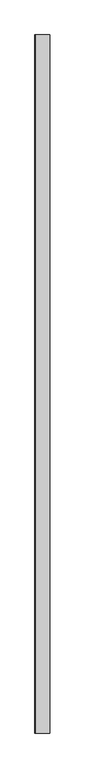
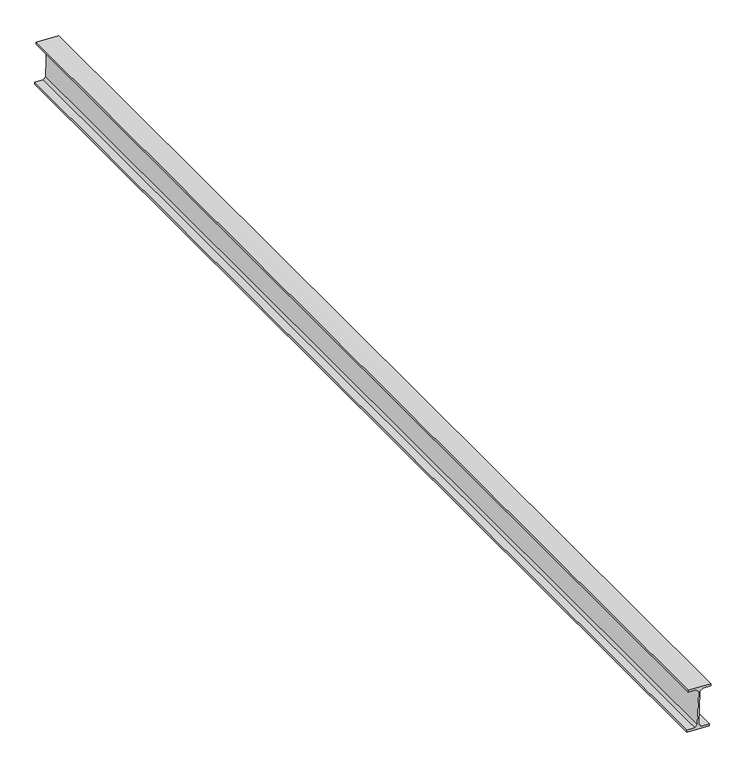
"""IFC4 building model written with IfcOpenShell, lengths in millimetres: beam geometry, Panne 341 : Panne 341."""

from ifc_helpers import new_model, si_unit, frame, origin, place, context, project, spatial, polyline, outline, extrude, source, transform, mapped, element, save


def beam_8df134ad(model_context):
    return source(origin(), model_context, "Body", "SweptSolid", [
        extrude(outline(polyline([(7809.9121877, 1819.7097791), (7807.043944, 1901.6596002), (7814.4394157, 1901.9184417), (7815.4712838, 1872.4364939), (7824.7805836, 1863.7568086), (7951.9027451, 1868.2060842), (7960.5824305, 1877.515384), (7959.5505623, 1906.9973319), (7966.9460339, 1907.2561734), (7969.8142777, 1825.3063523), (7962.418806, 1825.0475108), (7961.3869378, 1854.5294586), (7952.077638, 1863.2091439), (7824.9554765, 1858.7598683), (7816.2757912, 1849.4505685), (7817.3076594, 1819.9686206), (7809.9121877, 1819.7097791)])), frame((0.0, -8510.0, 0.0), z_axis=(0.0, 1.0, 0.0), x_axis=(0.0, 0.0, 1.0)), (0.0, 0.0, 1.0), 4120.0),
    ])


if __name__ == "__main__":
    model = new_model("IFC4")
    model_context = context("Model", 3, world=origin())
    ifc_project = project(units=[si_unit("LENGTHUNIT", "METRE", prefix="MILLI")], contexts=[model_context])
    site = spatial("IfcSite", under=ifc_project)
    building = spatial("IfcBuilding", under=site)
    placement = place(None, origin())
    beam_shape = beam_8df134ad(model_context)
    element("IfcBeam", 1, ObjectType="Panne 341 : Panne 341", at=placement, inside=building, context=model_context, shape_type="MappedRepresentation", body=[
        mapped(beam_shape, transform((0.0, 0.0, 0.0), x_axis=(1.0, 0.0, 0.0), y_axis=(0.0, 1.0, 0.0), z_axis=(0.0, 0.0, 1.0))),
    ])
    save(model, "model.ifc")
